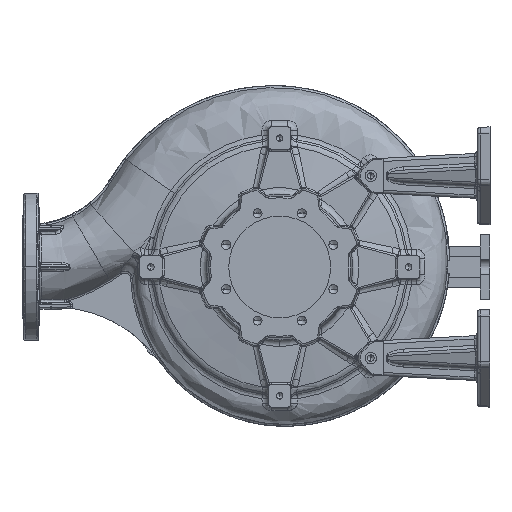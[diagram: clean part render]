
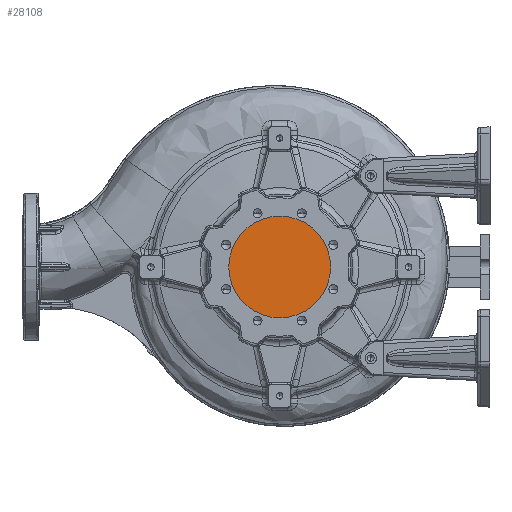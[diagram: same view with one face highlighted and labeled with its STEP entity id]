
A CAD part, left-side view. The second image highlights one B-rep face of the part: STEP entity #28108.
In plain terms, the highlighted planar face has unit normal (-1, 0, 0).
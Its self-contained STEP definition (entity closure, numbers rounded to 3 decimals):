
#1059 = DIRECTION ( 'NONE',  ( 1., 0., 0. ) ) ;
#3291 = AXIS2_PLACEMENT_3D ( 'NONE', #113617, #37160, #126411 ) ;
#7601 = CIRCLE ( 'NONE', #3291, 79. ) ;
#16487 = VERTEX_POINT ( 'NONE', #55086 ) ;
#27237 = PLANE ( 'NONE',  #81740 ) ;
#28108 = ADVANCED_FACE ( 'NONE', ( #107489 ), #27237, .T. ) ;
#37160 = DIRECTION ( 'NONE',  ( 1., 0., 0. ) ) ;
#48582 = ORIENTED_EDGE ( 'NONE', *, *, #77685, .F. ) ;
#55086 = CARTESIAN_POINT ( 'NONE',  ( -539.5, 0., -79. ) ) ;
#67390 = DIRECTION ( 'NONE',  ( -1., 0., 0. ) ) ;
#70825 = AXIS2_PLACEMENT_3D ( 'NONE', #77484, #1059, #90278 ) ;
#77484 = CARTESIAN_POINT ( 'NONE',  ( -539.5, 0., 0. ) ) ;
#77685 = EDGE_CURVE ( 'NONE', #126152, #16487, #158599, .T. ) ;
#81740 = AXIS2_PLACEMENT_3D ( 'NONE', #143790, #67390, #156480 ) ;
#89947 = EDGE_CURVE ( 'NONE', #16487, #126152, #7601, .T. ) ;
#90278 = DIRECTION ( 'NONE',  ( 0., 1., 0. ) ) ;
#107489 = FACE_OUTER_BOUND ( 'NONE', #165303, .T. ) ;
#113617 = CARTESIAN_POINT ( 'NONE',  ( -539.5, 0., 0. ) ) ;
#126152 = VERTEX_POINT ( 'NONE', #161049 ) ;
#126411 = DIRECTION ( 'NONE',  ( 0., 1., 0. ) ) ;
#143790 = CARTESIAN_POINT ( 'NONE',  ( -539.5, 0., 0. ) ) ;
#144312 = ORIENTED_EDGE ( 'NONE', *, *, #89947, .F. ) ;
#156480 = DIRECTION ( 'NONE',  ( 0., 1., 0. ) ) ;
#158599 = CIRCLE ( 'NONE', #70825, 79. ) ;
#161049 = CARTESIAN_POINT ( 'NONE',  ( -539.5, 0., 79. ) ) ;
#165303 = EDGE_LOOP ( 'NONE', ( #48582, #144312 ) ) ;
